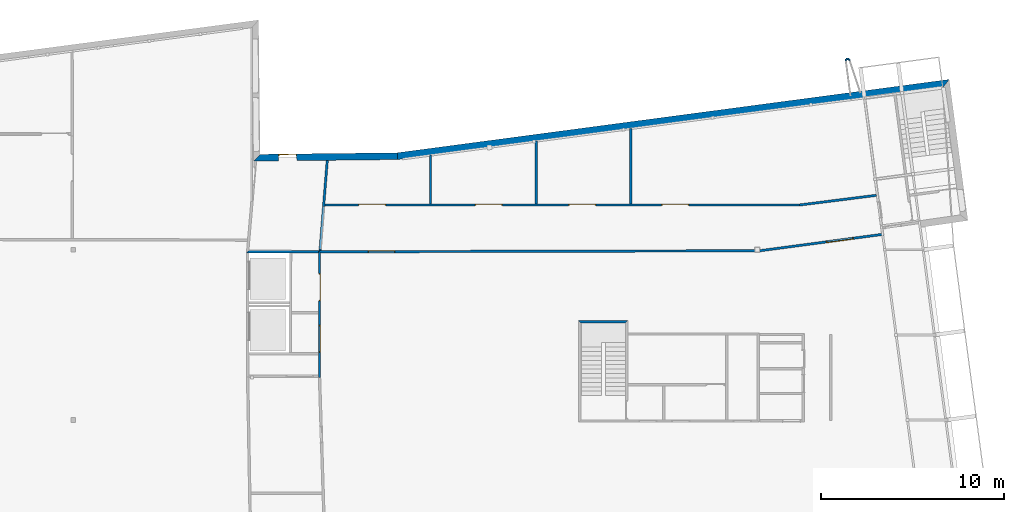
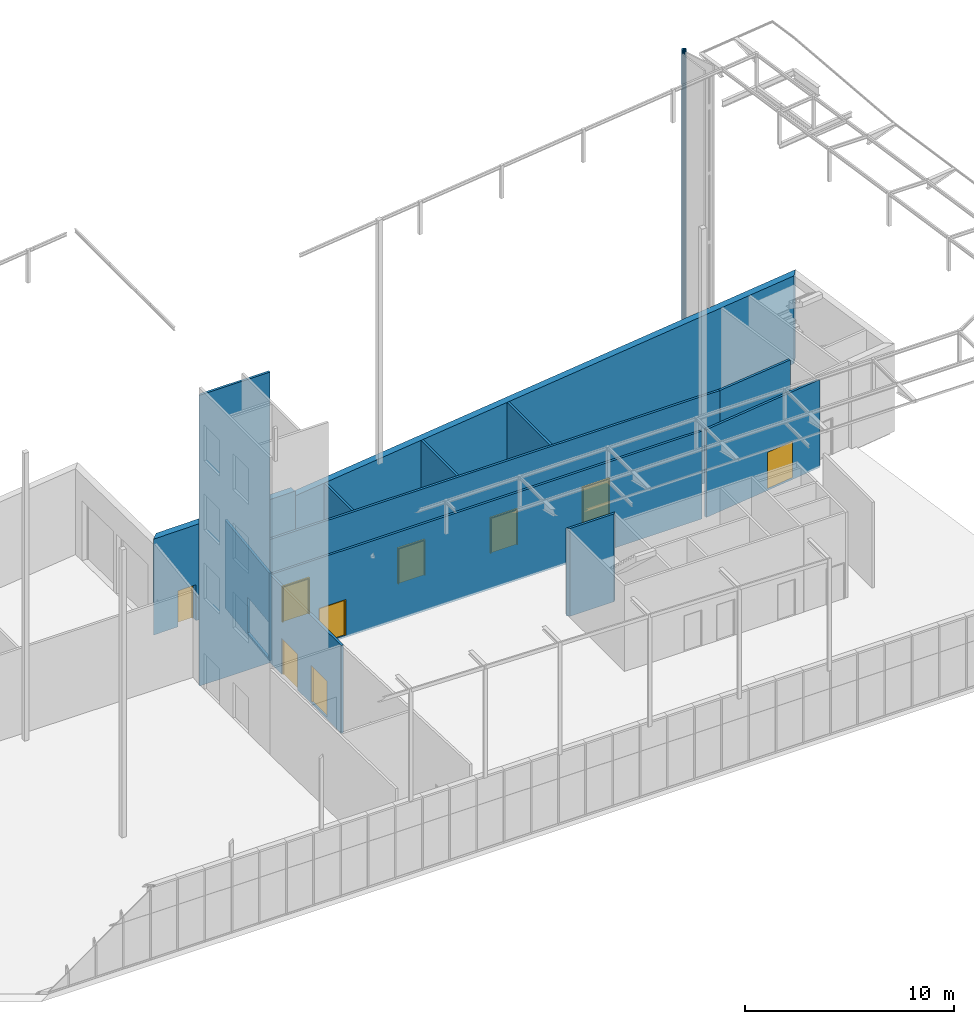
# One storey, part 27 of 40: 14 walls, 9 doors, 10 openings.
"""IFC2X3 building model written with IfcOpenShell, lengths in metres."""

import ifcopenshell
import ifcopenshell.guid

model = None  # the IFC model being written
_history = None  # IfcOwnerHistory: only IFC2X3 demands one
_inside = {}  # id of a spatial element -> (the spatial element, [elements in it])
_under = {}  # id of a project, library or spatial element -> (it, [spatial elements below it])
_declared = {}  # id of a project -> (the project, [libraries it declares])
_typed = {}  # id of a type object -> (the type object, [elements of that type])
_made_of = {}  # id of a material, layer set ... -> (it, [elements and type objects made of it])


def new_model(schema):
    """Start an empty IFC model of exactly this schema.

    Asked for "IFC4X3", IfcOpenShell would pick the latest addendum, in which some entities
    have other attributes; the version numbers below select the first issue.
    IFC2X3 requires an IfcOwnerHistory on every rooted entity: one is made here for all.
    """
    global model, _history
    if schema == "IFC4X3":
        model = ifcopenshell.file(schema_version=(4, 3, 0, 0))
    else:
        model = ifcopenshell.file(schema=schema)
    _inside.clear()
    _under.clear()
    _declared.clear()
    _typed.clear()
    _made_of.clear()
    _history = None
    if model.schema == "IFC2X3":
        org = make("IfcOrganization", Name="unknown")
        user = make(
            "IfcPersonAndOrganization",
            ThePerson=make("IfcPerson", FamilyName="unknown"),
            TheOrganization=org,
        )
        app = make(
            "IfcApplication",
            ApplicationDeveloper=org,
            Version="unknown",
            ApplicationFullName="unknown",
            ApplicationIdentifier="unknown",
        )
        _history = make(
            "IfcOwnerHistory",
            OwningUser=user,
            OwningApplication=app,
            ChangeAction="ADDED",
            CreationDate=0,
        )
    return model


def make(cls, **values):
    """One entity of the class cls with the attributes given. An attribute that is None is left unset."""
    return model.create_entity(
        cls, **{name: value for name, value in values.items() if value is not None}
    )


def entity(cls, *values):
    """Any entity or typed value of the class cls, its attributes in the order of the schema. None: left unset."""
    e = model.create_entity(cls)
    for i, value in enumerate(values):
        if value is not None:
            e[i] = value
    return e


def rooted(cls, **values):
    """An entity with a GlobalId (a new one), such as an element, a storey or a relation."""
    return make(cls, GlobalId=ifcopenshell.guid.new(), OwnerHistory=_history, **values)


def si_unit(unit_type, name, prefix=None):
    """IfcSIUnit, for example si_unit("LENGTHUNIT", "METRE", prefix="MILLI")."""
    return make("IfcSIUnit", UnitType=unit_type, Prefix=prefix, Name=name)


def converted_unit(unit_type, name, factor, base, dimensions=None, offset=None):
    """IfcConversionBasedUnit, such as the inch: factor (a typed value) times the base unit."""
    return make(
        "IfcConversionBasedUnit"
        if offset is None
        else "IfcConversionBasedUnitWithOffset",
        ConversionOffset=offset,
        Dimensions=None
        if dimensions is None
        else entity("IfcDimensionalExponents", *dimensions),
        UnitType=unit_type,
        Name=name,
        ConversionFactor=make(
            "IfcMeasureWithUnit", ValueComponent=factor, UnitComponent=base
        ),
    )


def money_unit(currency):
    """IfcMonetaryUnit."""
    return make("IfcMonetaryUnit", Currency=currency)


def assignment(units):
    """IfcUnitAssignment: the units of a project."""
    return None if units is None else make("IfcUnitAssignment", Units=units)


def point(xyz):
    """IfcCartesianPoint."""
    return None if xyz is None else make("IfcCartesianPoint", Coordinates=xyz)


def direction(xyz):
    """IfcDirection."""
    return None if xyz is None else make("IfcDirection", DirectionRatios=xyz)


def frame(location, z_axis=None, x_axis=None):
    """IfcAxis2Placement3D, a coordinate frame: its origin and axes. An axis left out is left unset."""
    return make(
        "IfcAxis2Placement3D",
        Location=point(location),
        Axis=direction(z_axis),
        RefDirection=direction(x_axis),
    )


def frame_2d(location, x_axis=None):
    """IfcAxis2Placement2D, a coordinate frame in the plane: its origin and x axis."""
    return make(
        "IfcAxis2Placement2D", Location=point(location), RefDirection=direction(x_axis)
    )


def origin_with_axes():
    """The frame at (0, 0, 0) with the z axis (0, 0, 1) and the x axis (1, 0, 0) written out."""
    return frame((0.0, 0.0, 0.0), z_axis=(0.0, 0.0, 1.0), x_axis=(1.0, 0.0, 0.0))


def origin_2d_with_axis():
    """The frame at (0, 0) in the plane with the x axis (1, 0) written out."""
    return frame_2d((0.0, 0.0), x_axis=(1.0, 0.0))


def place(relative_to, where):
    """IfcLocalPlacement: puts the frame where relative to a parent placement (None: the world)."""
    return make(
        "IfcLocalPlacement", PlacementRelTo=relative_to, RelativePlacement=where
    )


def context(
    kind, dimensions, precision=None, world=None, true_north=None, identifier=None
):
    """IfcGeometricRepresentationContext, for example the 3D "Model" context."""
    return make(
        "IfcGeometricRepresentationContext",
        ContextIdentifier=identifier,
        ContextType=kind,
        CoordinateSpaceDimension=dimensions,
        Precision=precision,
        WorldCoordinateSystem=world,
        TrueNorth=true_north,
    )


def subcontext(parent, identifier, kind, view, scale=None):
    """IfcGeometricRepresentationSubContext, for example "Body" below "Model"."""
    return make(
        "IfcGeometricRepresentationSubContext",
        ContextIdentifier=identifier,
        ContextType=kind,
        ParentContext=parent,
        TargetScale=scale,
        TargetView=view,
    )


def project(units=None, contexts=None):
    """IfcProject with its units and contexts."""
    return rooted(
        "IfcProject",
        Name="project",
        RepresentationContexts=contexts,
        UnitsInContext=assignment(units),
    )


def spatial(cls, under=None, at=None, **own):
    """A site, building, storey or space (cls), placed at a placement, below another one or the project."""
    s = rooted(cls, ObjectPlacement=at, **own)
    if under is not None:
        _under.setdefault(under.id(), (under, []))[1].append(s)
    return s


def polyline(points):
    """IfcPolyline through the points."""
    return make("IfcPolyline", Points=[point(p) for p in points])


def circle_curve(where, radius):
    """IfcCircle in the frame where."""
    return make("IfcCircle", Position=where, Radius=radius)


def parameter(value):
    """IfcParameterValue: where a trimmed curve begins or ends, as a parameter of its basis curve."""
    return model.create_entity("IfcParameterValue", value)


def trimmed(basis, trim1, trim2, sense, master):
    """IfcTrimmedCurve: the piece of a basis curve between two trims."""
    return make(
        "IfcTrimmedCurve",
        BasisCurve=basis,
        Trim1=trim1,
        Trim2=trim2,
        SenseAgreement=sense,
        MasterRepresentation=master,
    )


def segment(curve, same_sense, transition):
    """IfcCompositeCurveSegment."""
    return make(
        "IfcCompositeCurveSegment",
        Transition=transition,
        SameSense=same_sense,
        ParentCurve=curve,
    )


def composite_curve(segments, self_intersect=None):
    """IfcCompositeCurve: segments joined end to end."""
    return make("IfcCompositeCurve", Segments=segments, SelfIntersect=self_intersect)


def profile(cls, at=None, kind="AREA", **sizes):
    """A parametric profile (cls). Its sizes go by their IFC names, for example OverallWidth=200.0."""
    return make(cls, ProfileType=kind, Position=at, **sizes)


def rectangle(**sizes):
    """IfcRectangleProfileDef."""
    return profile("IfcRectangleProfileDef", **sizes)


def outline(outer, holes=None, kind="AREA"):
    """IfcArbitraryClosedProfileDef: a profile drawn as a closed curve; with holes, ...WithVoids."""
    if holes is None:
        return make("IfcArbitraryClosedProfileDef", ProfileType=kind, OuterCurve=outer)
    return make(
        "IfcArbitraryProfileDefWithVoids",
        ProfileType=kind,
        OuterCurve=outer,
        InnerCurves=holes,
    )


def extrude(swept, where, along, depth):
    """IfcExtrudedAreaSolid: the profile swept, set in the frame where, extruded along a direction by depth."""
    return make(
        "IfcExtrudedAreaSolid",
        SweptArea=swept,
        Position=where,
        ExtrudedDirection=direction(along),
        Depth=depth,
    )


def clip(a, b, op="DIFFERENCE"):
    """IfcBooleanClippingResult: the solid a cut by the half space b."""
    return make(
        "IfcBooleanClippingResult", Operator=op, FirstOperand=a, SecondOperand=b
    )


def halfspace(plane, agree):
    """IfcHalfSpaceSolid: all space on one side of the plane z = 0 of the frame plane."""
    return make(
        "IfcHalfSpaceSolid",
        BaseSurface=make("IfcPlane", Position=plane),
        AgreementFlag=agree,
    )


def faces_of(points, faces, orient=None, outer=None):
    """IfcFace entities. A face is a list of loops; a loop is a list of indices into points, from 0.

    orient and outer hold one flag for each loop. By default every Orientation is true, the
    first loop of a face is its IfcFaceOuterBound and the others are IfcFaceBound.
    """
    made = []
    for i, loops in enumerate(faces):
        bounds = []
        for j, loop in enumerate(loops):
            is_outer = j == 0 if outer is None else outer[i][j]
            bounds.append(
                make(
                    "IfcFaceOuterBound" if is_outer else "IfcFaceBound",
                    Bound=make("IfcPolyLoop", Polygon=[points[k] for k in loop]),
                    Orientation=True if orient is None else orient[i][j],
                )
            )
        made.append(make("IfcFace", Bounds=bounds))
    return made


def faceted_brep(points, faces, orient=None, outer=None, voids=None):
    """IfcFacetedBrep: a solid bounded by flat faces; with voids (closed shells), ...WithVoids."""
    shared = [point(p) for p in points]
    hull = make("IfcClosedShell", CfsFaces=faces_of(shared, faces, orient, outer))
    if voids is None:
        return make("IfcFacetedBrep", Outer=hull)
    return make(
        "IfcFacetedBrepWithVoids",
        Outer=hull,
        Voids=[
            make(cls, CfsFaces=faces_of(shared, fs, o, b)) for cls, fs, o, b in voids
        ],
    )


def shape(context_of_items, identifier, shape_type, items):
    """IfcShapeRepresentation: the items that make up one representation, for example the "Body"."""
    return make(
        "IfcShapeRepresentation",
        ContextOfItems=context_of_items,
        RepresentationIdentifier=identifier,
        RepresentationType=shape_type,
        Items=items,
    )


def source(mapping_origin, context_of_items, identifier, shape_type, items):
    """IfcRepresentationMap: a shape defined once, which mapped items show again and again."""
    return make(
        "IfcRepresentationMap",
        MappingOrigin=mapping_origin,
        MappedRepresentation=shape(context_of_items, identifier, shape_type, items),
    )


def transform(
    local_origin,
    x_axis=None,
    y_axis=None,
    z_axis=None,
    scale=None,
    scale2=None,
    scale3=None,
    uniform=True,
):
    """IfcCartesianTransformationOperator3D, or its non-uniform kind. x_axis, y_axis, z_axis: its Axis1, 2, 3."""
    if uniform:
        return make(
            "IfcCartesianTransformationOperator3D",
            Axis1=direction(x_axis),
            Axis2=direction(y_axis),
            LocalOrigin=point(local_origin),
            Scale=scale,
            Axis3=direction(z_axis),
        )
    return make(
        "IfcCartesianTransformationOperator3DnonUniform",
        Axis1=direction(x_axis),
        Axis2=direction(y_axis),
        LocalOrigin=point(local_origin),
        Scale=scale,
        Axis3=direction(z_axis),
        Scale2=scale2,
        Scale3=scale3,
    )


def mapped(mapping_source, mapping_target):
    """IfcMappedItem: shows the shape of a source again, moved by a transform."""
    return make(
        "IfcMappedItem", MappingSource=mapping_source, MappingTarget=mapping_target
    )


def material(Name=None, Category=None):
    """IfcMaterial."""
    return make("IfcMaterial", Name=Name, Category=Category)


def material_list(materials):
    """IfcMaterialList."""
    return make("IfcMaterialList", Materials=materials)


def layer(
    of_material, thickness, ventilated=None, Name=None, Category=None, Priority=None
):
    """IfcMaterialLayer: one layer of a wall or slab, of a material (None: an air gap)."""
    return make(
        "IfcMaterialLayer",
        Material=of_material,
        LayerThickness=thickness,
        IsVentilated=ventilated,
        Name=Name,
        Category=Category,
        Priority=Priority,
    )


def layer_set(layers, Name=None):
    """IfcMaterialLayerSet."""
    return make("IfcMaterialLayerSet", MaterialLayers=layers, LayerSetName=Name)


def layer_usage(for_layer_set, set_direction, sense, offset, extent=None):
    """IfcMaterialLayerSetUsage: how a layer set lies in its element."""
    return make(
        "IfcMaterialLayerSetUsage",
        ForLayerSet=for_layer_set,
        LayerSetDirection=set_direction,
        DirectionSense=sense,
        OffsetFromReferenceLine=offset,
        ReferenceExtent=extent,
    )


def made_of(thing, what):
    """Note that an element or type object is made of a material, layer set ...; save() writes the relation."""
    if what is not None:
        _made_of.setdefault(what.id(), (what, []))[1].append(thing)
    return thing


def type_object(cls, material=None, **own):
    """A type object (cls), such as IfcWallType, which elements share."""
    return made_of(rooted(cls, **own), material)


def element(
    cls,
    number,
    at=None,
    inside=None,
    cuts=None,
    type_object=None,
    material=None,
    context=None,
    identifier="Body",
    shape_type=None,
    held_by="IfcProductDefinitionShape",
    body=None,
    shapes=None,
    **own,
):
    """One element of the class cls, such as IfcWall. Its Tag is "e" and its number.

    at: its placement. inside: the storey or other place that contains it. cuts: it is an
    opening in that element (IfcRelVoidsElement). A single representation is given by context,
    identifier, shape_type and body (its items); several are given by shapes. held_by: the class
    of the entity that holds the representations. save() writes the other relations.
    """
    e = rooted(cls, Tag="e%d" % number, ObjectPlacement=at, **own)
    if body is not None:
        shapes = [shape(context, identifier, shape_type, body)]
    if shapes is not None:
        e.Representation = make(held_by, Representations=shapes)
    if inside is not None:
        _inside.setdefault(inside.id(), (inside, []))[1].append(e)
    if cuts is not None:
        rooted(
            "IfcRelVoidsElement", RelatingBuildingElement=cuts, RelatedOpeningElement=e
        )
    if type_object is not None:
        _typed.setdefault(type_object.id(), (type_object, []))[1].append(e)
    return made_of(e, material)


def fill(opening, filler):
    """IfcRelFillsElement: the door or window that sits in an opening."""
    return rooted(
        "IfcRelFillsElement",
        RelatingOpeningElement=opening,
        RelatedBuildingElement=filler,
    )


def aggregate(whole, parts):
    """IfcRelAggregates: a whole, such as a stair, and the parts it consists of."""
    return rooted("IfcRelAggregates", RelatingObject=whole, RelatedObjects=parts)


def save(model, path):
    """Write the relations noted so far, then the file.

    IfcRelAggregates (storeys below a building ...), IfcRelContainedInSpatialStructure (elements
    in a storey), IfcRelDefinesByType, IfcRelAssociatesMaterial and IfcRelDeclares: one each for
    every whole, place, type object, material and project.
    """
    for whole, parts in _under.values():
        aggregate(whole, parts)
    for where, things in _inside.values():
        rooted(
            "IfcRelContainedInSpatialStructure",
            RelatedElements=things,
            RelatingStructure=where,
        )
    for kind, things in _typed.values():
        rooted("IfcRelDefinesByType", RelatedObjects=things, RelatingType=kind)
    for what, things in _made_of.values():
        rooted("IfcRelAssociatesMaterial", RelatedObjects=things, RelatingMaterial=what)
    for by, libraries in _declared.values():
        rooted("IfcRelDeclares", RelatingContext=by, RelatedDefinitions=libraries)
    model.write(path)


model = new_model("IFC2X3")

# Units and contexts
model_context = context("Model", 3, precision=1e-05, world=origin_with_axes(), true_north=direction((0.0, 1.0)))
body_context = subcontext(model_context, "Body", "Model", "MODEL_VIEW")
ifc_project = project(units=[si_unit("LENGTHUNIT", "METRE"), si_unit("AREAUNIT", "SQUARE_METRE"), si_unit("VOLUMEUNIT", "CUBIC_METRE"), converted_unit("PLANEANGLEUNIT", "DEGREE", entity("IfcPlaneAngleMeasure", 0.0174532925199), si_unit("PLANEANGLEUNIT", "RADIAN"), dimensions=[0, 0, 0, 0, 0, 0, 0]), si_unit("SOLIDANGLEUNIT", "STERADIAN"), money_unit("EUR"), converted_unit("TIMEUNIT", "Year", entity("IfcTimeMeasure", 31556926.0), si_unit("TIMEUNIT", "SECOND"), dimensions=[0, 0, 0, 0, 0, 0, 0]), si_unit("MASSUNIT", "GRAM"), si_unit("THERMODYNAMICTEMPERATUREUNIT", "DEGREE_CELSIUS"), si_unit("LUMINOUSINTENSITYUNIT", "LUMEN")], contexts=[model_context])

# Site, building, storey
site_placement = place(None, origin_with_axes())
site = spatial("IfcSite", under=ifc_project, at=site_placement, Name="Undefined", CompositionType="ELEMENT")
building_placement = place(site_placement, origin_with_axes())
building = spatial("IfcBuilding", under=site, at=building_placement, Name="Undefined", CompositionType="ELEMENT")
storey_placement = place(building_placement, origin_with_axes())
storey = spatial("IfcBuildingStorey", under=building, at=storey_placement, Name="Rez de chauss\x8ee", CompositionType="ELEMENT", Elevation=0.0)

# Walls
ifc_material_1 = material(Name="Finition int - Enduit pl\x89tre")
ifc_layer_1 = layer(ifc_material_1, 0.015, ventilated="UNKNOWN")
ifc_material_2 = material(Name="Struct. - Parpaing b\x8eton")
ifc_layer_2 = layer(ifc_material_2, 0.1, ventilated="UNKNOWN")
ifc_layer_3 = layer(ifc_material_1, 0.015, ventilated="UNKNOWN")
ifc_layer_set_1 = layer_set([ifc_layer_1, ifc_layer_2, ifc_layer_3], Name="0.0-Cloison: parpaing + pl\x89tre 2 faces copie")
ifc_layer_usage_1 = layer_usage(ifc_layer_set_1, "AXIS2", "NEGATIVE", 0.065)
wall_type_1 = type_object("IfcWallType", Name="0.0-Cloison: parpaing + pl\x89tre 2 faces copie 130", PredefinedType="NOTDEFINED")
wall_1_placement = place(storey_placement, frame((28.9587636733, 18.4900686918, 0.0), z_axis=(0.0, 0.0, 1.0), x_axis=(1.0, 0.0, 0.0)))
element("IfcWallStandardCase", 1, at=wall_1_placement, inside=storey, type_object=wall_type_1, material=ifc_layer_usage_1, Name="VOILE_15CM", ObjectType="6700*150", context=body_context, shape_type="SweptSolid", body=[
    extrude(outline(polyline([(-0.00557605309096, -0.065), (3.92497209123, -0.065), (3.92497209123, 0.065), (0.136053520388, 0.065), (-0.00557605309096, -0.065)])), origin_with_axes(), (0.0, 0.0, 1.0), 16.95),
])
ifc_layer_usage_2 = layer_usage(ifc_layer_set_1, "AXIS2", "NEGATIVE", 0.0)
wall_2_placement = place(storey_placement, frame((58.6479897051, 21.0451274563, 0.0), z_axis=(0.0, 0.0, 1.0), x_axis=(0.992128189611, 0.125226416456, 0.0)))
element("IfcWallStandardCase", 2, at=wall_2_placement, inside=storey, type_object=wall_type_1, material=ifc_layer_usage_2, Name="Wall_Int_SEC_01", context=body_context, shape_type="SweptSolid", body=[
    extrude(outline(polyline([(0.510887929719, -0.13), (4.73115901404, -0.13), (4.7303623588, 0.0), (0.519059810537, 0.0), (0.510887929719, -0.13)])), origin_with_axes(), (0.0, 0.0, 1.0), 5.12),
])
ifc_layer_usage_3 = layer_usage(ifc_layer_set_1, "AXIS2", "NEGATIVE", 0.0)
wall_3_placement = place(storey_placement, frame((38.9462923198, 21.0451274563, 0.0), z_axis=(0.0, 0.0, 1.0), x_axis=(0.0, 1.0, 0.0)))
element("IfcWallStandardCase", 3, at=wall_3_placement, inside=storey, type_object=wall_type_1, material=ifc_layer_usage_3, Name="Wall_Int_SEC_01", context=body_context, shape_type="SweptSolid", body=[
    extrude(outline(polyline([(0.065, -0.13), (2.72837082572, -0.13), (2.71109578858, 0.0), (0.065, 0.0), (0.065, -0.13)])), origin_with_axes(), (0.0, 0.0, 1.0), 5.12),
])

# Wall, openings, doors
ifc_layer_usage_4 = layer_usage(ifc_layer_set_1, "AXIS2", "POSITIVE", -0.065)
wall_4_placement = place(storey_placement, frame((33.1117908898, 21.0451274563, 0.0), z_axis=(0.0, 0.0, 1.0), x_axis=(1.0, 0.0, 0.0)))
wall_4 = element("IfcWallStandardCase", 4, at=wall_4_placement, inside=storey, type_object=wall_type_1, material=ifc_layer_usage_4, Name="Wall_Int_SEC_01", context=body_context, shape_type="SweptSolid", body=[
    extrude(outline(polyline([(0.125243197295, -0.065), (26.0593445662, -0.065), (26.0511726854, 0.065), (0.135576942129, 0.065), (0.125243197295, -0.065)])), origin_with_axes(), (0.0, 0.0, 1.0), 5.12),
])
opening_1_placement = place(wall_4_placement, frame((2.70441083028, 0.0, 0.0), z_axis=(0.0, 0.0, 1.0), x_axis=(1.0, 0.0, 0.0)))
opening_1 = element("IfcOpeningElement", 5, at=opening_1_placement, cuts=wall_4, Name="DOOR", context=body_context, shape_type="SweptSolid", body=[
    extrude(rectangle(XDim=1.5, YDim=2.1, at=origin_2d_with_axis()), frame((0.0, 0.195, 1.05), z_axis=(0.0, -1.0, 0.0), x_axis=(1.0, 0.0, 0.0)), (0.0, 0.0, 1.0), 0.13),
    extrude(rectangle(XDim=1.5, YDim=2.1, at=origin_2d_with_axis()), frame((0.0, -0.065, 1.05), z_axis=(0.0, 1.0, 0.0), x_axis=(1.0, 0.0, 0.0)), (0.0, 0.0, 1.0), 0.13),
])
opening_2_placement = place(wall_4_placement, frame((9.07718136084, 0.0, 0.0), z_axis=(0.0, 0.0, 1.0), x_axis=(1.0, 0.0, 0.0)))
opening_2 = element("IfcOpeningElement", 6, at=opening_2_placement, cuts=wall_4, Name="DOOR", context=body_context, shape_type="SweptSolid", body=[
    extrude(rectangle(XDim=1.5, YDim=2.1, at=origin_2d_with_axis()), frame((0.0, 0.195, 1.05), z_axis=(0.0, -1.0, 0.0), x_axis=(1.0, 0.0, 0.0)), (0.0, 0.0, 1.0), 0.13),
    extrude(rectangle(XDim=1.5, YDim=2.1, at=origin_2d_with_axis()), frame((0.0, -0.065, 1.05), z_axis=(0.0, 1.0, 0.0), x_axis=(1.0, 0.0, 0.0)), (0.0, 0.0, 1.0), 0.13),
])
opening_3_placement = place(wall_4_placement, frame((14.1770725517, 0.0, 0.0), z_axis=(0.0, 0.0, 1.0), x_axis=(1.0, 0.0, 0.0)))
opening_3 = element("IfcOpeningElement", 7, at=opening_3_placement, cuts=wall_4, Name="DOOR", context=body_context, shape_type="SweptSolid", body=[
    extrude(rectangle(XDim=1.5, YDim=2.1, at=origin_2d_with_axis()), frame((0.0, 0.195, 1.05), z_axis=(0.0, -1.0, 0.0), x_axis=(1.0, 0.0, 0.0)), (0.0, 0.0, 1.0), 0.13),
    extrude(rectangle(XDim=1.5, YDim=2.1, at=origin_2d_with_axis()), frame((0.0, -0.065, 1.05), z_axis=(0.0, 1.0, 0.0), x_axis=(1.0, 0.0, 0.0)), (0.0, 0.0, 1.0), 0.13),
])
opening_4_placement = place(wall_4_placement, frame((19.2563164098, 0.0, 0.0), z_axis=(0.0, 0.0, 1.0), x_axis=(1.0, 0.0, 0.0)))
opening_4 = element("IfcOpeningElement", 8, at=opening_4_placement, cuts=wall_4, Name="DOOR", context=body_context, shape_type="SweptSolid", body=[
    extrude(rectangle(XDim=1.5, YDim=2.1, at=origin_2d_with_axis()), frame((0.0, 0.195, 1.05), z_axis=(0.0, -1.0, 0.0), x_axis=(1.0, 0.0, 0.0)), (0.0, 0.0, 1.0), 0.13),
    extrude(rectangle(XDim=1.5, YDim=2.1, at=origin_2d_with_axis()), frame((0.0, -0.065, 1.05), z_axis=(0.0, 1.0, 0.0), x_axis=(1.0, 0.0, 0.0)), (0.0, 0.0, 1.0), 0.13),
])
ifc_material_3 = material(Name="Background Fill-International")
ifc_material_4 = material(Name="Air Space")
ifc_material_list = material_list([ifc_material_3, ifc_material_4])
door_style_1 = type_object("IfcDoorStyle", Name="IFC Porte double - Simple battant", ConstructionType="ALUMINIUM", OperationType="DOUBLE_DOOR_SINGLE_SWING", ParameterTakesPrecedence=True, Sizeable=False)
shared_shape_1 = source(origin_with_axes(), body_context, "Body", "Brep", [
    faceted_brep([(0.75, 0.0, 0.0), (0.75, -0.1, 0.0), (0.7, -0.1, 0.0), (0.7, 0.0, 0.0), (0.75, 0.0, 2.1), (0.75, -0.1, 2.1), (-0.75, -0.1, 2.1), (-0.75, -0.1, 0.0), (-0.7, -0.1, 0.0), (-0.7, -0.1, 2.05), (0.7, -0.1, 2.05), (0.7, 0.0, 2.05), (-0.7, 0.0, 2.05), (-0.7, 0.0, 0.0), (-0.75, 0.0, 0.0), (-0.75, 0.0, 2.1)], [[[0, 1, 2, 3]], [[4, 5, 1, 0]], [[1, 5, 6, 7, 8, 9, 10, 2]], [[3, 2, 10, 11]], [[0, 3, 11, 12, 13, 14, 15, 4]], [[15, 6, 5, 4]], [[14, 7, 6, 15]], [[13, 8, 7, 14]], [[12, 9, 8, 13]], [[11, 10, 9, 12]]]),
    faceted_brep([(-0.7, 0.0, 0.0), (-0.7, -0.04, 0.0), (-0.7, -0.04, 2.05), (-0.7, 0.0, 2.05), (0.0, 0.0, 0.0), (0.0, -0.04, 0.0), (0.0, -0.04, 2.05), (0.0, 0.0, 2.05)], [[[0, 1, 2, 3]], [[4, 5, 1, 0]], [[1, 5, 6, 2]], [[3, 2, 6, 7]], [[0, 3, 7, 4]], [[7, 6, 5, 4]]]),
    faceted_brep([(0.7, 0.0, 0.0), (0.7, -0.04, 0.0), (0.0, -0.04, 0.0), (0.0, 0.0, 0.0), (0.7, 0.0, 2.05), (0.7, -0.04, 2.05), (0.0, -0.04, 2.05), (0.0, 0.0, 2.05)], [[[0, 1, 2, 3]], [[4, 5, 1, 0]], [[1, 5, 6, 2]], [[3, 2, 6, 7]], [[0, 3, 7, 4]], [[7, 6, 5, 4]]]),
])
door_1_placement = place(opening_1_placement, frame((-0.75, 0.0, 0.0), z_axis=(0.0, 0.0, 1.0), x_axis=(1.0, 0.0, 0.0)))
door_1 = element("IfcDoor", 9, at=door_1_placement, inside=storey, type_object=door_style_1, material=ifc_material_list, Name="DOOR", ObjectType="DOOR", OverallHeight=2.1, OverallWidth=1.5, context=body_context, shape_type="MappedRepresentation", body=[
    mapped(shared_shape_1, transform((0.75, 0.065, 0.0))),
])
fill(opening_1, door_1)
door_2_placement = place(opening_2_placement, frame((-0.75, 0.0, 0.0), z_axis=(0.0, 0.0, 1.0), x_axis=(1.0, 0.0, 0.0)))
door_2 = element("IfcDoor", 10, at=door_2_placement, inside=storey, type_object=door_style_1, material=ifc_material_list, Name="DOOR", ObjectType="DOOR", OverallHeight=2.1, OverallWidth=1.5, context=body_context, shape_type="MappedRepresentation", body=[
    mapped(shared_shape_1, transform((0.75, 0.065, 0.0))),
])
fill(opening_2, door_2)
door_3_placement = place(opening_3_placement, frame((-0.75, 0.0, 0.0), z_axis=(0.0, 0.0, 1.0), x_axis=(1.0, 0.0, 0.0)))
door_3 = element("IfcDoor", 11, at=door_3_placement, inside=storey, type_object=door_style_1, material=ifc_material_list, Name="DOOR", ObjectType="DOOR", OverallHeight=2.1, OverallWidth=1.5, context=body_context, shape_type="MappedRepresentation", body=[
    mapped(shared_shape_1, transform((0.75, 0.065, 0.0))),
])
fill(opening_3, door_3)
door_4_placement = place(opening_4_placement, frame((-0.75, 0.0, 0.0), z_axis=(0.0, 0.0, 1.0), x_axis=(1.0, 0.0, 0.0)))
door_4 = element("IfcDoor", 12, at=door_4_placement, inside=storey, type_object=door_style_1, material=ifc_material_list, Name="DOOR", ObjectType="DOOR", OverallHeight=2.1, OverallWidth=1.5, context=body_context, shape_type="MappedRepresentation", body=[
    mapped(shared_shape_1, transform((0.75, 0.065, 0.0))),
])
fill(opening_4, door_4)

ifc_layer_usage_5 = layer_usage(ifc_layer_set_1, "AXIS2", "NEGATIVE", 0.0)
wall_5_placement = place(storey_placement, frame((33.0137357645, 18.490103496, 0.0), z_axis=(0.0, 0.0, 1.0), x_axis=(0.0, -1.0, 0.0)))
wall_5 = element("IfcWallStandardCase", 13, at=wall_5_placement, inside=storey, type_object=wall_type_1, material=ifc_layer_usage_5, Name="VOILE_15CM", ObjectType="6700*150", context=body_context, shape_type="SweptSolid", body=[
    extrude(outline(polyline([(-0.064698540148, -0.13), (6.86223922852, -0.13), (6.86018090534, 0.0), (0.0650001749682, 0.0), (-0.064698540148, -0.13)])), origin_with_axes(), (0.0, 0.0, 1.0), 5.12),
])
opening_5_placement = place(wall_5_placement, frame((4.74108165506, 0.0, 0.12), z_axis=(0.0, 0.0, 1.0), x_axis=(1.0, 0.0, 0.0)))
opening_5 = element("IfcOpeningElement", 14, at=opening_5_placement, cuts=wall_5, Name="DOOR", context=body_context, shape_type="SweptSolid", body=[
    extrude(rectangle(XDim=1.5, YDim=2.1, at=origin_2d_with_axis()), frame((0.0, 0.13, 1.05), z_axis=(0.0, -1.0, 0.0), x_axis=(1.0, 0.0, 0.0)), (0.0, 0.0, 1.0), 0.13),
    extrude(rectangle(XDim=1.5, YDim=2.1, at=origin_2d_with_axis()), frame((0.0, -0.13, 1.05), z_axis=(0.0, 1.0, 0.0), x_axis=(1.0, 0.0, 0.0)), (0.0, 0.0, 1.0), 0.13),
])
opening_6_placement = place(wall_5_placement, frame((1.93101618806, 0.0, 0.0), z_axis=(0.0, 0.0, 1.0), x_axis=(1.0, 0.0, 0.0)))
opening_6 = element("IfcOpeningElement", 15, at=opening_6_placement, cuts=wall_5, Name="DOOR", context=body_context, shape_type="SweptSolid", body=[
    extrude(rectangle(XDim=1.5, YDim=2.1, at=origin_2d_with_axis()), frame((0.0, 0.13, 1.05), z_axis=(0.0, -1.0, 0.0), x_axis=(1.0, 0.0, 0.0)), (0.0, 0.0, 1.0), 0.13),
    extrude(rectangle(XDim=1.5, YDim=2.1, at=origin_2d_with_axis()), frame((0.0, -0.13, 1.05), z_axis=(0.0, 1.0, 0.0), x_axis=(1.0, 0.0, 0.0)), (0.0, 0.0, 1.0), 0.13),
])
door_style_2 = type_object("IfcDoorStyle", Name="IFC Porte double - Simple battant", ConstructionType="ALUMINIUM", OperationType="DOUBLE_DOOR_SINGLE_SWING", ParameterTakesPrecedence=True, Sizeable=False)
door_5_placement = place(opening_5_placement, frame((-0.75, 0.0, 0.0), z_axis=(0.0, 0.0, 1.0), x_axis=(1.0, 0.0, 0.0)))
door_5 = element("IfcDoor", 16, at=door_5_placement, inside=storey, type_object=door_style_2, material=ifc_material_list, Name="DOOR", ObjectType="DOOR", OverallHeight=2.1, OverallWidth=1.5, context=body_context, shape_type="MappedRepresentation", body=[
    mapped(shared_shape_1, transform((0.75, 0.0, 0.0))),
])
fill(opening_5, door_5)
door_6_placement = place(opening_6_placement, frame((-0.75, 0.0, 0.0), z_axis=(0.0, 0.0, 1.0), x_axis=(1.0, 0.0, 0.0)))
door_6 = element("IfcDoor", 17, at=door_6_placement, inside=storey, type_object=door_style_2, material=ifc_material_list, Name="DOOR", ObjectType="DOOR", OverallHeight=2.1, OverallWidth=1.5, context=body_context, shape_type="MappedRepresentation", body=[
    mapped(shared_shape_1, transform((0.75, 0.0, 0.0))),
])
fill(opening_6, door_6)

# Wall, opening, door
ifc_layer_usage_6 = layer_usage(ifc_layer_set_1, "AXIS2", "POSITIVE", -0.065)
wall_6_placement = place(storey_placement, frame((33.0137357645, 18.490103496, 0.0), z_axis=(0.0, 0.0, 1.0), x_axis=(0.999997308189, 0.00232026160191, 0.0)))
wall_6 = element("IfcWallStandardCase", 18, at=wall_6_placement, inside=storey, type_object=wall_type_1, material=ifc_layer_usage_6, Name="MACONNERIE_15CM", ObjectType="5000*150", context=body_context, shape_type="SweptSolid", body=[
    extrude(outline(polyline([(-0.000150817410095, -0.065), (23.7145502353, -0.065), (23.7145502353, 0.065), (-0.129849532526, 0.065), (-0.000150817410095, -0.065)])), origin_with_axes(), (0.0, 0.0, 1.0), 5.12),
])
opening_7_placement = place(wall_6_placement, frame((3.31889416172, 0.0, 0.12), z_axis=(0.0, 0.0, 1.0), x_axis=(1.0, 0.0, 0.0)))
opening_7 = element("IfcOpeningElement", 19, at=opening_7_placement, cuts=wall_6, Name="DOOR", context=body_context, shape_type="SweptSolid", body=[
    extrude(rectangle(XDim=1.5, YDim=2.1, at=origin_2d_with_axis()), frame((0.0, 0.195, 1.05), z_axis=(0.0, -1.0, 0.0), x_axis=(1.0, 0.0, 0.0)), (0.0, 0.0, 1.0), 0.13),
    extrude(rectangle(XDim=1.5, YDim=2.1, at=origin_2d_with_axis()), frame((0.0, -0.065, 1.05), z_axis=(0.0, 1.0, 0.0), x_axis=(1.0, 0.0, 0.0)), (0.0, 0.0, 1.0), 0.13),
])
door_style_3 = type_object("IfcDoorStyle", Name="IFC Porte double - Simple battant", ConstructionType="ALUMINIUM", OperationType="DOUBLE_DOOR_SINGLE_SWING", ParameterTakesPrecedence=True, Sizeable=False)
shared_shape_2 = source(origin_with_axes(), body_context, "Body", "Brep", [
    faceted_brep([(-0.75, 0.0, 0.0), (-0.7, 0.0, 0.0), (-0.7, -0.1, 0.0), (-0.75, -0.1, 0.0), (-0.75, 0.0, 2.1), (0.75, 0.0, 2.1), (0.75, 0.0, 0.0), (0.7, 0.0, 0.0), (0.7, 0.0, 2.05), (-0.7, 0.0, 2.05), (-0.7, -0.1, 2.05), (0.7, -0.1, 2.05), (0.7, -0.1, 0.0), (0.75, -0.1, 0.0), (0.75, -0.1, 2.1), (-0.75, -0.1, 2.1)], [[[0, 1, 2, 3]], [[0, 4, 5, 6, 7, 8, 9, 1]], [[1, 9, 10, 2]], [[3, 2, 10, 11, 12, 13, 14, 15]], [[4, 0, 3, 15]], [[5, 4, 15, 14]], [[6, 5, 14, 13]], [[7, 6, 13, 12]], [[8, 7, 12, 11]], [[9, 8, 11, 10]]]),
    faceted_brep([(0.7, 0.0, 0.0), (0.7, 0.0, 2.05), (0.7, -0.04, 2.05), (0.7, -0.04, 0.0), (0.0, 0.0, 0.0), (0.0, 0.0, 2.05), (0.0, -0.04, 2.05), (0.0, -0.04, 0.0)], [[[0, 1, 2, 3]], [[0, 4, 5, 1]], [[1, 5, 6, 2]], [[3, 2, 6, 7]], [[4, 0, 3, 7]], [[5, 4, 7, 6]]]),
    faceted_brep([(-0.7, 0.0, 0.0), (0.0, 0.0, 0.0), (0.0, -0.04, 0.0), (-0.7, -0.04, 0.0), (-0.7, 0.0, 2.05), (0.0, 0.0, 2.05), (0.0, -0.04, 2.05), (-0.7, -0.04, 2.05)], [[[0, 1, 2, 3]], [[0, 4, 5, 1]], [[1, 5, 6, 2]], [[3, 2, 6, 7]], [[4, 0, 3, 7]], [[5, 4, 7, 6]]]),
])
door_7_placement = place(opening_7_placement, frame((-0.75, 0.0, 0.0), z_axis=(0.0, 0.0, 1.0), x_axis=(1.0, 0.0, 0.0)))
door_7 = element("IfcDoor", 20, at=door_7_placement, inside=storey, type_object=door_style_3, material=ifc_material_list, Name="DOOR", ObjectType="DOOR", OverallHeight=2.1, OverallWidth=1.5, context=body_context, shape_type="MappedRepresentation", body=[
    mapped(shared_shape_2, transform((0.75, 0.065, 0.0))),
])
fill(opening_7, door_7)

# Wall
ifc_layer_usage_7 = layer_usage(ifc_layer_set_1, "AXIS2", "POSITIVE", 0.0)
wall_7_placement = place(storey_placement, frame((47.085, 14.61, 0.0), z_axis=(0.0, 0.0, 1.0), x_axis=(1.0, 0.0, 0.0)))
element("IfcWallStandardCase", 21, at=wall_7_placement, inside=storey, type_object=wall_type_1, material=ifc_layer_usage_7, Name="VOILE_15CM", ObjectType="5850*150", context=body_context, shape_type="SweptSolid", body=[
    extrude(outline(polyline([(0.13, 0.0), (2.57499998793, 0.0), (2.70499998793, 0.13), (0.0, 0.13), (0.13, 0.0)])), origin_with_axes(), (0.0, 0.0, 1.0), 5.12),
])

# Wall, opening, door
ifc_layer_usage_8 = layer_usage(ifc_layer_set_1, "AXIS2", "NEGATIVE", 0.065)
wall_8_placement = place(storey_placement, frame((56.9700807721, 18.5443411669, 0.0), z_axis=(0.0, 0.0, 1.0), x_axis=(0.991215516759, 0.132256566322, 0.0)))
wall_8 = element("IfcWallStandardCase", 22, at=wall_8_placement, inside=storey, type_object=wall_type_1, material=ifc_layer_usage_8, Name="Wall_Int_06", context=body_context, shape_type="SweptSolid", body=[
    extrude(outline(polyline([(0.0, -0.065), (6.85195893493, -0.065), (6.72208382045, 0.065), (0.0, 0.065), (0.0, -0.065)])), origin_with_axes(), (0.0, 0.0, 1.0), 5.12),
])
opening_8_placement = place(wall_8_placement, frame((4.42745792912, 0.0, 0.12), z_axis=(0.0, 0.0, 1.0), x_axis=(1.0, 0.0, 0.0)))
opening_8 = element("IfcOpeningElement", 23, at=opening_8_placement, cuts=wall_8, Name="DOOR", context=body_context, shape_type="SweptSolid", body=[
    extrude(rectangle(XDim=1.5, YDim=2.1, at=origin_2d_with_axis()), frame((0.0, -0.195, 1.05), z_axis=(0.0, 1.0, 0.0), x_axis=(1.0, 0.0, 0.0)), (0.0, 0.0, 1.0), 0.13),
    extrude(rectangle(XDim=1.5, YDim=2.1, at=origin_2d_with_axis()), frame((0.0, 0.065, 1.05), z_axis=(0.0, -1.0, 0.0), x_axis=(1.0, 0.0, 0.0)), (0.0, 0.0, 1.0), 0.13),
])
door_8_placement = place(opening_8_placement, frame((0.75, 0.0, 0.0), z_axis=(0.0, 0.0, 1.0), x_axis=(-1.0, 0.0, 0.0)))
door_8 = element("IfcDoor", 24, at=door_8_placement, inside=storey, type_object=door_style_1, material=ifc_material_list, Name="DOOR", ObjectType="DOOR", OverallHeight=2.1, OverallWidth=1.5, context=body_context, shape_type="MappedRepresentation", body=[
    mapped(shared_shape_1, transform((0.75, 0.065, 0.0))),
])
fill(opening_8, door_8)

# Wall, opening
ifc_layer_usage_9 = layer_usage(ifc_layer_set_1, "AXIS2", "NEGATIVE", 0.0)
wall_9_placement = place(storey_placement, frame((32.9086883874, 18.4900686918, 0.0), z_axis=(0.0, 0.0, 1.0), x_axis=(0.0792403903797, 0.996855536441, 0.0)))
wall_9 = element("IfcWallStandardCase", 25, at=wall_9_placement, inside=storey, type_object=wall_type_1, material=ifc_layer_usage_9, Name="Wall_Int_SEC_01", context=body_context, shape_type="SweptSolid", body=[
    extrude(outline(polyline([(0.0755387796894, -0.13), (5.01947418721, -0.13), (5.00764082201, 0.0), (0.065205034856, 0.0), (0.0755387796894, -0.13)])), origin_with_axes(), (0.0, 0.0, 1.0), 5.12),
])
opening_9_placement = place(wall_9_placement, frame((1.32197391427, 0.0, 0.12), z_axis=(0.0, 0.0, 1.0), x_axis=(1.0, 0.0, 0.0)))
element("IfcOpeningElement", 26, at=opening_9_placement, cuts=wall_9, Name="DOOR", context=body_context, shape_type="SweptSolid", body=[
    extrude(rectangle(XDim=2.35, YDim=2.1, at=origin_2d_with_axis()), frame((0.0, -0.26, 1.05), z_axis=(0.0, 1.0, 0.0), x_axis=(1.0, 0.0, 0.0)), (0.0, 0.0, 1.0), 0.13),
    extrude(rectangle(XDim=2.35, YDim=2.1, at=origin_2d_with_axis()), frame((0.0, 0.0, 1.05), z_axis=(0.0, -1.0, 0.0), x_axis=(1.0, 0.0, 0.0)), (0.0, 0.0, 1.0), 0.13),
])

# Walls
ifc_layer_usage_10 = layer_usage(ifc_layer_set_1, "AXIS2", "NEGATIVE", 0.0)
wall_10_placement = place(storey_placement, frame((49.8687313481, 21.0451274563, 0.0), z_axis=(0.0, 0.0, 1.0), x_axis=(0.0, 1.0, 0.0)))
element("IfcWallStandardCase", 27, at=wall_10_placement, inside=storey, type_object=wall_type_1, material=ifc_layer_usage_10, Name="Wall_Int_SEC_01", context=body_context, shape_type="SweptSolid", body=[
    extrude(outline(polyline([(0.065, -0.13), (4.17979805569, -0.13), (4.16252301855, 0.0), (0.065, 0.0), (0.065, -0.13)])), origin_with_axes(), (0.0, 0.0, 1.0), 5.12),
])
ifc_layer_usage_11 = layer_usage(ifc_layer_set_1, "AXIS2", "NEGATIVE", 0.0)
wall_11_placement = place(storey_placement, frame((44.7275454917, 21.0451274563, 0.0), z_axis=(0.0, 0.0, 1.0), x_axis=(0.0, 1.0, 0.0)))
element("IfcWallStandardCase", 28, at=wall_11_placement, inside=storey, type_object=wall_type_1, material=ifc_layer_usage_11, Name="Wall_Int_SEC_01", context=body_context, shape_type="SweptSolid", body=[
    extrude(outline(polyline([(0.065, -0.13), (3.49661208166, -0.13), (3.47933704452, 0.0), (0.065, 0.0), (0.065, -0.13)])), origin_with_axes(), (0.0, 0.0, 1.0), 5.12),
])
ifc_material_5 = material(Name="Finition ext - Cr\x8epis")
ifc_layer_4 = layer(ifc_material_5, 0.015, ventilated="UNKNOWN")
ifc_material_6 = material(Name="Isolation - Fibres de bois")
ifc_layer_5 = layer(ifc_material_6, 0.16, ventilated="UNKNOWN")
ifc_material_7 = material(Name="Struct. - B.A. banch\x8e")
ifc_layer_6 = layer(ifc_material_7, 0.18, ventilated="UNKNOWN")
ifc_layer_7 = layer(ifc_material_1, 0.015, ventilated="UNKNOWN")
ifc_layer_set_2 = layer_set([ifc_layer_4, ifc_layer_5, ifc_layer_6, ifc_layer_7], Name="1.2-Mur ext: rev\x8et ext + isol ext + ma\x8donnerie + enduit")
ifc_layer_usage_12 = layer_usage(ifc_layer_set_2, "AXIS2", "POSITIVE", 0.0)
wall_type_2 = type_object("IfcWallType", Name="1.2-Mur ext: rev\x8et ext + isol ext + ma\x8donnerie + enduit 370", PredefinedType="NOTDEFINED")
wall_12_placement = place(storey_placement, frame((67.3302595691, 27.9012764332, 0.0), z_axis=(0.0, 0.0, 1.0), x_axis=(-0.991286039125, -0.131726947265, 0.0)))
element("IfcWallStandardCase", 29, at=wall_12_placement, inside=storey, type_object=wall_type_2, material=ifc_layer_usage_12, Name="WallEx02", ObjectType="WALL", context=body_context, shape_type="SweptSolid", body=[
    extrude(outline(polyline([(0.0, 0.0), (30.4020162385, 0.0), (30.424365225, 0.37), (0.370165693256, 0.37), (0.0, 0.0)])), origin_with_axes(), (0.0, 0.0, 1.0), 5.12),
])

# Wall, opening, door
ifc_layer_usage_13 = layer_usage(ifc_layer_set_2, "AXIS2", "POSITIVE", 0.0)
wall_13_placement = place(storey_placement, frame((37.1931653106, 23.8965116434, -0.195), z_axis=(0.0, 0.0, 1.0), x_axis=(-0.999934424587, -0.0114519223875, 0.0)))
wall_13 = element("IfcWallStandardCase", 30, at=wall_13_placement, inside=storey, type_object=wall_type_2, material=ifc_layer_usage_13, Name="ExtWall_01", ObjectType="WALL", context=body_context, shape_type="SweptSolid", body=[
    extrude(outline(polyline([(0.0, 0.0), (7.48695363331, 0.0), (7.85683092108, 0.37), (-0.0223489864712, 0.37), (0.0, 0.0)])), origin_with_axes(), (0.0, 0.0, 1.0), 5.595),
])
opening_10_placement = place(wall_13_placement, frame((5.99115513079, 0.0, 0.0), z_axis=(0.0, 0.0, 1.0), x_axis=(1.0, 0.0, 0.0)))
opening_10 = element("IfcOpeningElement", 31, at=opening_10_placement, cuts=wall_13, Name="DOOR_1000", context=body_context, shape_type="SweptSolid", body=[
    extrude(rectangle(XDim=1.0, YDim=2.1, at=origin_2d_with_axis()), frame((0.0, -0.37, 1.05), z_axis=(0.0, 1.0, 0.0), x_axis=(1.0, 0.0, 0.0)), (0.0, 0.0, 1.0), 0.37),
    extrude(rectangle(XDim=1.0, YDim=2.1, at=origin_2d_with_axis()), frame((0.0, 0.37, 1.05), z_axis=(0.0, -1.0, 0.0), x_axis=(1.0, 0.0, 0.0)), (0.0, 0.0, 1.0), 0.37),
])
door_style_4 = type_object("IfcDoorStyle", Name="IFC Porte - Simple battant", ConstructionType="NOTDEFINED", OperationType="SINGLE_SWING_RIGHT", ParameterTakesPrecedence=True, Sizeable=False)
shared_shape_3 = source(origin_with_axes(), body_context, "Body", "Brep", [
    faceted_brep([(-0.5, 0.0, 0.0), (-0.45, 0.0, 0.0), (-0.45, -0.1, 0.0), (-0.5, -0.1, 0.0), (-0.5, 0.0, 2.1), (0.5, 0.0, 2.1), (0.5, 0.0, 0.0), (0.45, 0.0, 0.0), (0.45, 0.0, 2.05), (-0.45, 0.0, 2.05), (-0.45, -0.1, 2.05), (0.45, -0.1, 2.05), (0.45, -0.1, 0.0), (0.5, -0.1, 0.0), (0.5, -0.1, 2.1), (-0.5, -0.1, 2.1)], [[[0, 1, 2, 3]], [[0, 4, 5, 6, 7, 8, 9, 1]], [[1, 9, 10, 2]], [[3, 2, 10, 11, 12, 13, 14, 15]], [[4, 0, 3, 15]], [[5, 4, 15, 14]], [[6, 5, 14, 13]], [[7, 6, 13, 12]], [[8, 7, 12, 11]], [[9, 8, 11, 10]]]),
    faceted_brep([(0.45, 0.0, 0.0), (0.45, 0.0, 2.05), (0.45, -0.04, 2.05), (0.45, -0.04, 0.0), (-0.45, 0.0, 0.0), (-0.45, 0.0, 2.05), (-0.45, -0.04, 2.05), (-0.45, -0.04, 0.0)], [[[0, 1, 2, 3]], [[0, 4, 5, 1]], [[1, 5, 6, 2]], [[3, 2, 6, 7]], [[4, 0, 3, 7]], [[5, 4, 7, 6]]]),
])
door_9_placement = place(opening_10_placement, frame((0.5, 0.0, 0.0), z_axis=(0.0, 0.0, 1.0), x_axis=(-1.0, 0.0, 0.0)))
door_9 = element("IfcDoor", 32, at=door_9_placement, inside=storey, type_object=door_style_4, material=ifc_material_list, Name="DOOR_1000", ObjectType="DOOR", OverallHeight=2.1, OverallWidth=1.0, context=body_context, shape_type="MappedRepresentation", body=[
    mapped(shared_shape_3, transform((0.5, 0.0, 0.0))),
])
fill(opening_10, door_9)

# Wall
ifc_material_8 = material(Name="% Ê50 1740021793")
ifc_layer_8 = layer(ifc_material_8, 0.075, ventilated="UNKNOWN")
ifc_layer_set_3 = layer_set([ifc_layer_8], Name="% Ê50 1740021793 0.075")
ifc_layer_usage_14 = layer_usage(ifc_layer_set_3, "AXIS2", "POSITIVE", 0.0)
wall_type_3 = type_object("IfcWallType", Name="% Ê50 1740021793 75", PredefinedType="NOTDEFINED")
wall_14_placement = place(storey_placement, frame((61.9261478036, 28.9450315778, 0.0), z_axis=(0.0, 0.0, 1.0), x_axis=(-0.155961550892, 0.987763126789, 0.0)))
element("IfcWallStandardCase", 33, at=wall_14_placement, inside=storey, type_object=wall_type_3, material=ifc_layer_usage_14, Name="WallEx04", ObjectType="WALL", context=body_context, shape_type="Clipping", body=[
    clip(extrude(outline(composite_curve([segment(trimmed(circle_curve(frame_2d((0.0, 0.141269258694), x_axis=(0.0, -1.0)), 0.141269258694), [point((0.0, 0.0)), parameter(0.0)], [point((0.00676585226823, 0.282376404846)), parameter(177.25486539)], True, "CARTESIAN"), True, "CONTINUOUS"), segment(polyline([(0.00676585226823, 0.282376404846), (0.00390321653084, 0.207423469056)]), True, "CONTINUOUS"), segment(trimmed(circle_curve(frame_2d((0.0, 0.141269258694), x_axis=(-0.0767586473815, -0.9970497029)), 0.066269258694), [point((0.00390321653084, 0.207423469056)), parameter(181.025638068)], [point((-0.00508673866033, 0.0751955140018)), parameter(0.0)], False, "CARTESIAN"), True, "CONTINUOUS"), segment(polyline([(-0.00508673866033, 0.0751955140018), (0.0, 0.0)]), True, "CONTINUOUS")], self_intersect=False)), origin_with_axes(), (0.0, 0.0, 1.0), 22.0), halfspace(frame((-1.67202599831, 0.0400624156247, 19.116829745), z_axis=(0.0871307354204, -0.00208768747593, -0.996194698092), x_axis=(0.0, 0.999997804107, -0.00209565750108)), True)),
])

save(model, "model.ifc")
